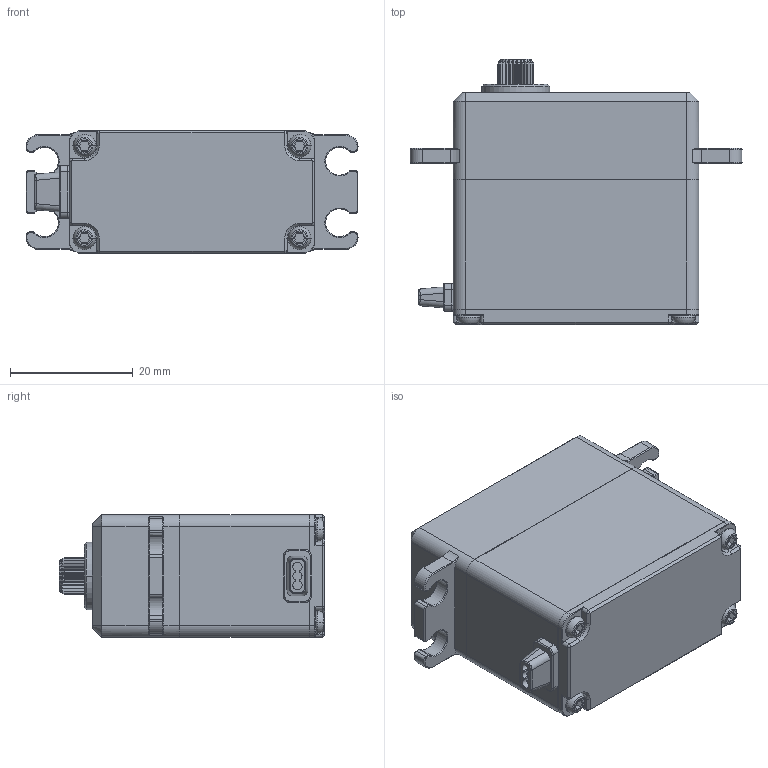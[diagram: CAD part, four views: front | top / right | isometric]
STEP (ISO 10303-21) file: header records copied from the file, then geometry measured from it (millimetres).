
FILE_DESCRIPTION((''),'2;1');
FILE_NAME('RS400BFBW','2025-05-23T',('扂'),(''),'PRO/ENGINEER BY PARAMETRIC TECHNOLOGY CORPORATION, 2010280','PRO/ENGINEER BY PARAMETRIC TECHNOLOGY CORPORATION, 2010280','');
FILE_SCHEMA(('CONFIG_CONTROL_DESIGN'));
Length unit declared in the file: millimetre
Products named in the file (1): DDJ-STDCAR7-A73
Bounding box: 54 x 43.2 x 20 mm (x, y, z)
Volume: 30639.9 mm3; surface area: 6899.2 mm2
Topology: 1 solids, 1 shells, 589 faces, 1488 edges, 911 vertices
Faces by surface type: plane 220, cylinder 213, cone 84, torus 48, bspline 16, sphere 8
Entity records: 21095 total; most frequent: CARTESIAN_POINT 6934, DIRECTION 2998, ORIENTED_EDGE 2964, EDGE_CURVE 1482, AXIS2_PLACEMENT_3D 1108, VERTEX_POINT 911, VECTOR 782, LINE 782
